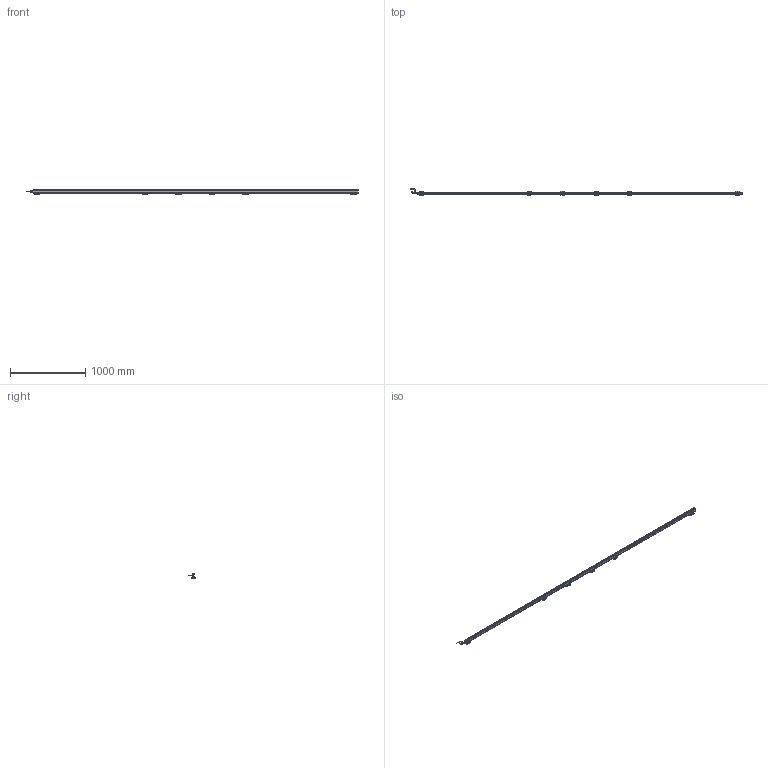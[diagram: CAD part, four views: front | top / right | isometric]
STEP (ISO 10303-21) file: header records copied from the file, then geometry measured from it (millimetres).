
FILE_DESCRIPTION(('Bauteilbeschreibung','HiCAD-Model','HiCAD-STEP-TRANSLATION','Bauteilbeschreibung'),'2;1');
FILE_NAME('PERFORMAXIQEASY_4230-4320_3D.STP','2014-03-05T13:36:41+00:00',('Konstrukteur'),('Konstrukteur Firma GmbH'),' HiCAD 2011, Step 1600.0 ','HiCAD 2011','confidential');
FILE_SCHEMA(('AUTOMOTIVE_DESIGN { 1 2 10303 214 0 1 1 1 }'));
Products named in the file (56): PERFORMAXIQEASY_4230_4320_3D; A_PERFORMAX IQ EASY 4230_4320; A_PERFORMAX IQ EASY SPEED; A_CAP DE; A_CAP CE_5; LED_2C_3MM; LED02C03MM; A519020315_CONNECTOR APPLIANCE; A_INSERT; A_CONTACTS; A_HOUSING; A_PROFILE; A_POTTING; PIN; PIN0; A532000100_BRACKET BARS_ MOUNT; A_SIDE PIECE; A0SIDE0PIECE; A_BRACKET SMALL; A_SLIDE PIECE; A5320001000BRACKET0BARS00MOUNT; A0SIDE0PIECE0; A0SIDE0PIECE1; A0BRACKET0SMALL; A0SLIDE0PIECE; A5320001000BRACKET0BARS00MOUNT0; A0SIDE0PIECE2; A0SIDE0PIECE3; A0BRACKET0SMALL0; A0SLIDE0PIECE0; A0SIDE0PIECE4; A0SIDE0PIECE5; A0BRACKET0SMALL1; A0SLIDE0PIECE1; A0SIDE0PIECE6; A0SIDE0PIECE7; A0BRACKET0SMALL2; A0SLIDE0PIECE2; A0SIDE0PIECE8; A0SIDE0PIECE9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
Assembly tree (55 placements, depth 5):
  PERFORMAXIQEASY_4230_4320_3D
    A_PERFORMAX IQ EASY 4230_4320
      A_PERFORMAX IQ EASY SPEED
        A_CAP DE
        A_CAP CE_5
        LED_2C_3MM
        LED02C03MM
        A519020315_CONNECTOR APPLIANCE
          A_INSERT
          A_CONTACTS
          A_HOUSING
        A_PROFILE
        A_POTTING
        PIN
        PIN0
      A532000100_BRACKET BARS_ MOUNT
        A_SIDE PIECE
        A0SIDE0PIECE
        A_BRACKET SMALL
        A_SLIDE PIECE
      A5320001000BRACKET0BARS00MOUNT
        A0SIDE0PIECE0
        A0SIDE0PIECE1
        A0BRACKET0SMALL
        A0SLIDE0PIECE
      A5320001000BRACKET0BARS00MOUNT0
        A0SIDE0PIECE2
        A0SIDE0PIECE3
        A0BRACKET0SMALL0
        A0SLIDE0PIECE0
      A5320001000BRACKET0BARS00MOUNT0
        A0SIDE0PIECE4
        A0SIDE0PIECE5
        A0BRACKET0SMALL1
        A0SLIDE0PIECE1
      A5320001000BRACKET0BARS00MOUNT0
        A0SIDE0PIECE6
        A0SIDE0PIECE7
        A0BRACKET0SMALL2
        A0SLIDE0PIECE2
      A5320001000BRACKET0BARS00MOUNT0
        A0SIDE0PIECE8
        A0SIDE0PIECE9
        A0BRACKET0SMALL3
        A0SLIDE0PIECE3
      A_CONNECTOR STRAIGHT
        EXTRUDED SOLID_0
        DRAAD GEBOGEN
        REVOLVED SOLID_1
        REVOLVED SOLID_3
      A_CONNECTOR ANGLED
        REVOLVED0SOLID01
        EXTRUDED0SOLID00
        C_EDGE SWEEP_0
        REVOLVED SOLID_2
        REVOLVED0SOLID03
Bounding box: 4397.89 x 84.24 x 63.13 mm (x, y, z)
Volume: 4438087.5 mm3; surface area: 1066047.5 mm2
Topology: 49 solids, 49 shells, 4983 faces, 12800 edges, 7585 vertices
Faces by surface type: cylinder 2137, plane 1879, sphere 332, torus 299, bspline 248, cone 88
Full cylindrical faces by diameter (mm): 0.8 x10, 1 x5, 2.387 x12, 3 x27, 3.1 x1, 4.2 x2, 5 x4, 5.5 x30, 8 x2, 8.2 x1, 8.4 x2, 8.945 x1, 9 x2, 10.2 x1, 10.5 x3, 11 x1, 12 x3, 12.8 x1, 13.8 x4, 14.5 x3
Entity records: 231105 total; most frequent: CARTESIAN_POINT 54548, DIRECTION 24777, ORIENTED_EDGE 24320, EDGE_CURVE 12160, COLOUR_RGB 11541, PRESENTATION_STYLE_ASSIGNMENT 11541, OVER_RIDING_STYLED_ITEM 11497, CURVE_STYLE 11492
